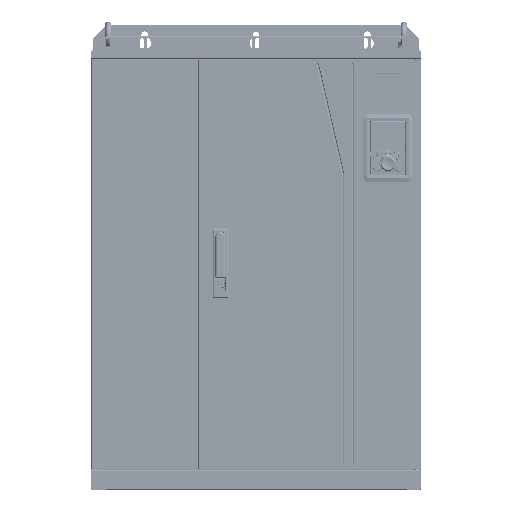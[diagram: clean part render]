
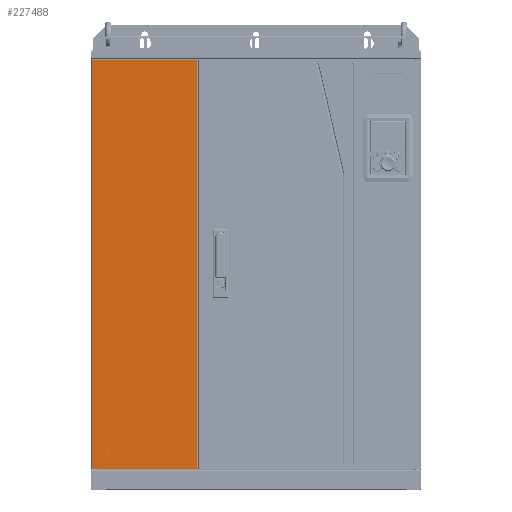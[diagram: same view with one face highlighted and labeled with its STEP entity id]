
A CAD part, top view. The second image highlights one B-rep face of the part: STEP entity #227488.
In plain terms, the highlighted planar face has unit normal (0, 0, 1) as drawn and (0, 1, 0) by its records, which use the part's own axes.
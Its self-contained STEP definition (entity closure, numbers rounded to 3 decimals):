
#227488 = ADVANCED_FACE('',(#227489),#227523,.T.);
#227489 = FACE_BOUND('',#227490,.F.);
#227490 = EDGE_LOOP('',(#227491,#227501,#227509,#227517));
#227491 = ORIENTED_EDGE('',*,*,#227492,.F.);
#227492 = EDGE_CURVE('',#227493,#227495,#227497,.T.);
#227493 = VERTEX_POINT('',#227494);
#227494 = CARTESIAN_POINT('',(-421.3,0.,-108.3));
#227495 = VERTEX_POINT('',#227496);
#227496 = CARTESIAN_POINT('',(-421.3,0.,108.3));
#227497 = LINE('',#227498,#227499);
#227498 = CARTESIAN_POINT('',(-421.3,0.,-108.3));
#227499 = VECTOR('',#227500,1.);
#227500 = DIRECTION('',(0.,0.,1.));
#227501 = ORIENTED_EDGE('',*,*,#227502,.T.);
#227502 = EDGE_CURVE('',#227493,#227503,#227505,.T.);
#227503 = VERTEX_POINT('',#227504);
#227504 = CARTESIAN_POINT('',(421.3,0.,-108.3));
#227505 = LINE('',#227506,#227507);
#227506 = CARTESIAN_POINT('',(-421.3,0.,-108.3));
#227507 = VECTOR('',#227508,1.);
#227508 = DIRECTION('',(1.,0.,0.));
#227509 = ORIENTED_EDGE('',*,*,#227510,.F.);
#227510 = EDGE_CURVE('',#227511,#227503,#227513,.T.);
#227511 = VERTEX_POINT('',#227512);
#227512 = CARTESIAN_POINT('',(421.3,0.,108.3));
#227513 = LINE('',#227514,#227515);
#227514 = CARTESIAN_POINT('',(421.3,0.,108.3));
#227515 = VECTOR('',#227516,1.);
#227516 = DIRECTION('',(0.,0.,-1.));
#227517 = ORIENTED_EDGE('',*,*,#227518,.F.);
#227518 = EDGE_CURVE('',#227495,#227511,#227519,.T.);
#227519 = LINE('',#227520,#227521);
#227520 = CARTESIAN_POINT('',(-421.3,0.,108.3));
#227521 = VECTOR('',#227522,1.);
#227522 = DIRECTION('',(1.,0.,0.));
#227523 = PLANE('',#227524);
#227524 = AXIS2_PLACEMENT_3D('',#227525,#227526,#227527);
#227525 = CARTESIAN_POINT('',(0.,0.,0.));
#227526 = DIRECTION('',(0.,1.,0.));
#227527 = DIRECTION('',(1.,0.,0.));
